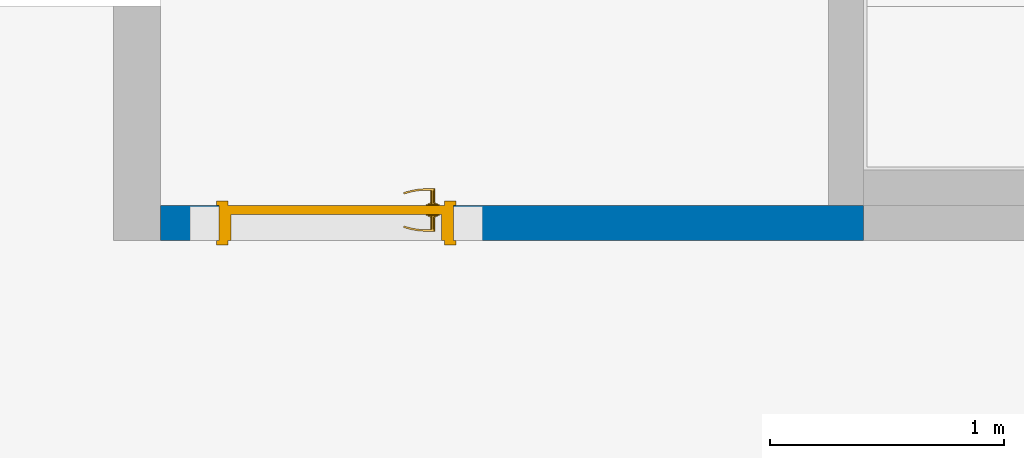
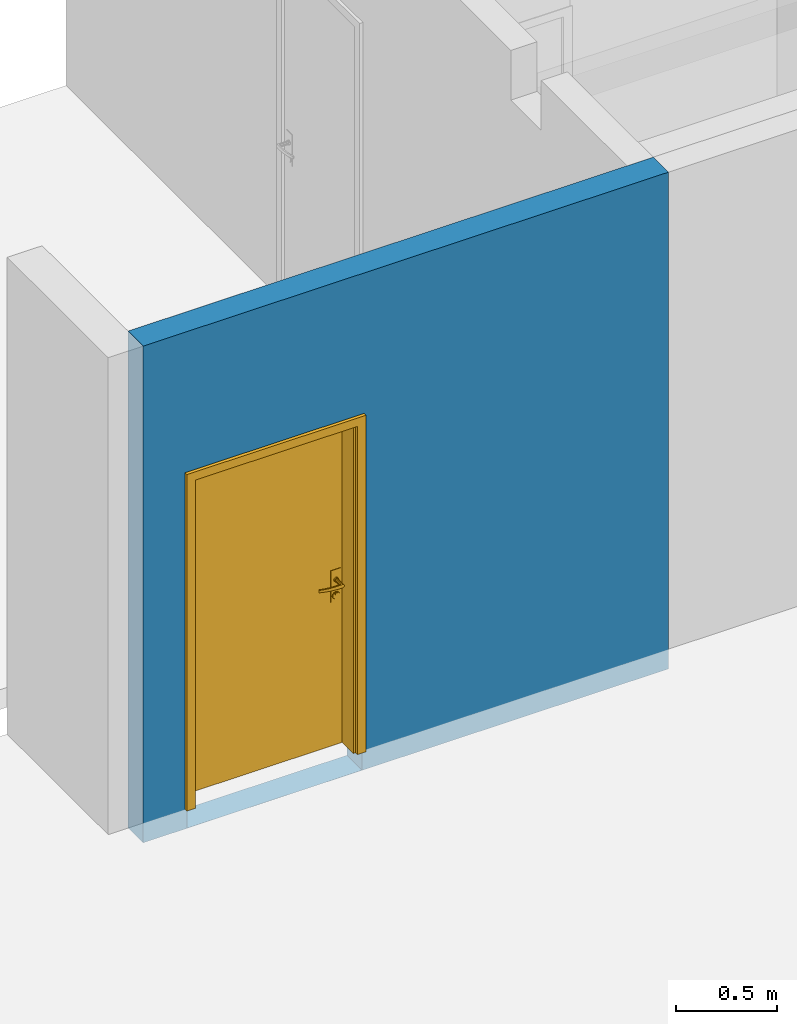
# One storey, part 12 of 17: 1 door, 1 wall, 1 opening.
"""IFC4 building model written with IfcOpenShell, lengths in millimetres."""

from ifc_helpers import new_model, entity, si_unit, converted_unit, derived_unit, direction, frame, origin_with_axes, place, context, subcontext, project, spatial, polygons, material, constituent, constituent_set, type_object, element, fill, save


model = new_model("IFC4")

# Units and contexts
model_context = context("Model", 3, precision=0.01, world=origin_with_axes(), true_north=direction((0.0, 1.0)))
body_context = subcontext(model_context, "Body", "Model", "MODEL_VIEW")
ifc_project = project(units=[si_unit("LENGTHUNIT", "METRE", prefix="MILLI"), si_unit("AREAUNIT", "SQUARE_METRE"), si_unit("VOLUMEUNIT", "CUBIC_METRE"), converted_unit("PLANEANGLEUNIT", "DEGREE", entity("IfcPlaneAngleMeasure", 0.0174532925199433), si_unit("PLANEANGLEUNIT", "RADIAN"), dimensions=[0, 0, 0, 0, 0, 0, 0]), converted_unit("TIMEUNIT", "Year", entity("IfcTimeMeasure", 31557600.0), si_unit("TIMEUNIT", "SECOND"), dimensions=[0, 0, 1, 0, 0, 0, 0]), si_unit("MASSUNIT", "GRAM", prefix="KILO"), si_unit("THERMODYNAMICTEMPERATUREUNIT", "DEGREE_CELSIUS"), si_unit("LUMINOUSINTENSITYUNIT", "LUMEN"), si_unit("ENERGYUNIT", "JOULE", prefix="MEGA"), derived_unit("THERMALCONDUCTANCEUNIT", [(si_unit("POWERUNIT", "WATT"), 1), (si_unit("LENGTHUNIT", "METRE"), -1), (si_unit("THERMODYNAMICTEMPERATUREUNIT", "KELVIN"), -1)]), derived_unit("SPECIFICHEATCAPACITYUNIT", [(si_unit("ENERGYUNIT", "JOULE"), 1), (si_unit("MASSUNIT", "GRAM", prefix="KILO"), -1), (si_unit("THERMODYNAMICTEMPERATUREUNIT", "KELVIN"), -1)]), derived_unit("MASSDENSITYUNIT", [(si_unit("MASSUNIT", "GRAM", prefix="KILO"), 1), (si_unit("VOLUMEUNIT", "CUBIC_METRE"), -1)])], contexts=[model_context])

# Site, building, storey
site_placement = place(None, origin_with_axes())
site = spatial("IfcSite", under=ifc_project, at=site_placement, Name="Exteriér", CompositionType="ELEMENT")
building_placement = place(site_placement, origin_with_axes())
building = spatial("IfcBuilding", under=site, at=building_placement, Name="Univerzitní lezecké centrum", CompositionType="ELEMENT")
storey_placement = place(building_placement, frame((0.0, 0.0, 3200.0), z_axis=(0.0, 0.0, 1.0), x_axis=(1.0, 0.0, 0.0)))
storey = spatial("IfcBuildingStorey", under=building, at=storey_placement, Name="2.NP", CompositionType="ELEMENT", Elevation=3200.0)

# Wall, opening, door
ifc_material = material(Name="Keramické tvárnice nenosné tl. 150 mm")
ifc_constituent = constituent(ifc_material, Name="Keramické tvárnice nenosné tl. 150 mm")
ifc_constituent_set = constituent_set(constituents=[ifc_constituent], Name="!Vnitřní keramická stěna 150 mm - nenosná")
wall_type = type_object("IfcWallType", Name="!Vnitřní keramická stěna 150 mm - nenosná 150", PredefinedType="NOTDEFINED")
wall_placement = place(storey_placement, frame((7900.096919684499, -1149.612793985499, -120.000000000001), z_axis=(0.0, 0.0, 1.0), x_axis=(-1.0, 0.0, 0.0)))
wall = element("IfcWall", 1, at=wall_placement, inside=storey, type_object=wall_type, material=ifc_constituent_set, Name="St07", PredefinedType="NOTDEFINED", context=body_context, shape_type="Tessellation", body=[
    polygons([(0.0, 0.0, 3000.0), (0.0, 0.0, 0.0), (3000.145758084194, 0.0, 0.0), (3000.145758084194, 0.0, 3000.0), (2750.145758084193, 0.0, 2140.000000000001), (2750.145758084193, 0.0, 120.000000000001), (2750.145758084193, 0.0, 0.500000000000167), (1750.145758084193, 0.0, 0.500000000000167), (1750.145758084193, 0.0, 120.000000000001), (1750.145758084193, 0.0, 2140.000000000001), (0.0, 150.0000102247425, 3000.0), (0.0, 149.9999999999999, 0.0), (3000.145758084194, 149.999999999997, 0.0), (3000.145758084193, 150.0000047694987, 3000.0), (2750.145758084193, 150.0000102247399, 2140.000000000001), (2750.145758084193, 149.9999999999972, 120.000000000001), (2750.145758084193, 149.9999999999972, 0.500000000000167), (1750.145758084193, 149.9999999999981, 0.500000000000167), (1750.145758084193, 149.9999999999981, 120.000000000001), (1750.145758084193, 150.0000102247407, 2140.000000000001)], [[[1, 2, 3, 4], [5, 6, 7, 8, 9, 10]], [[11, 12, 2, 1]], [[13, 3, 2, 12]], [[4, 3, 13, 14]], [[1, 4, 14, 11]], [[6, 5, 15, 16]], [[6, 16, 17, 7]], [[7, 17, 18, 8]], [[19, 9, 8, 18]], [[10, 9, 19, 20]], [[5, 10, 20, 15]], [[14, 13, 12, 11], [20, 19, 18, 17, 16, 15]]], closed=True),
])
opening_placement = place(wall_placement, frame((2250.145758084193, 0.0, 120.000000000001), z_axis=(0.0, 0.0, 1.0), x_axis=(1.0, 0.0, 0.0)))
opening = element("IfcOpeningElement", 2, at=opening_placement, cuts=wall, Name="D18", context=body_context, identifier="Reference", shape_type="Tessellation", body=[
    polygons([(500.0, -1.000000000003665, 2020.0), (-500.0, -1.000000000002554, 2020.0), (-500.0, -1.000000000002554, 0.0), (500.0, -1.000000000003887, 0.0), (512.0000000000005, -1.000000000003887, 0.0), (512.0000000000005, -1.000000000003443, 2032.0), (-512.0000000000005, -1.000000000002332, 2032.0), (-512.0000000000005, -1.000000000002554, 0.0), (500.0, 0.0, 0.0), (-500.0, 0.0, 0.0), (-500.0, 149.9999999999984, 0.0), (-500.0, 151.0000000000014, 0.0), (500.0, 151.0000000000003, 0.0), (500.0, 149.9999999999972, 0.0), (512.0000000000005, 0.0, 0.0), (512.0000000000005, 0.0, 2032.0), (-512.0000000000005, 0.0, 2032.0), (-512.0000000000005, 0.0, 0.0), (-500.0, 0.0, 2020.0), (-500.0, 149.9999999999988, 2020.0), (-512.0000000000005, 149.9999999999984, 0.0), (-512.0000000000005, 151.0000000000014, 0.0), (-512.0000000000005, 151.0000000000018, 2032.0), (512.0000000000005, 151.0000000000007, 2032.0), (512.0000000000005, 151.0000000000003, 0.0), (512.0000000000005, 149.9999999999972, 0.0), (500.0, 0.0, 2020.0), (500.0, 149.9999999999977, 2020.0), (512.0000000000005, 149.9999999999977, 2032.0), (-512.0000000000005, 149.9999999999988, 2032.0)], [[[1, 2, 3, 4]], [[3, 2, 1, 4, 5, 6, 7, 8]], [[9, 4, 3, 10, 11, 12, 13, 14]], [[4, 9, 15, 5]], [[15, 16, 6, 5]], [[16, 17, 7, 6]], [[17, 18, 8, 7]], [[10, 3, 8, 18]], [[10, 19, 20, 11]], [[12, 11, 21, 22]], [[13, 12, 22, 23, 24, 25]], [[14, 13, 25, 26]], [[27, 9, 14, 28]], [[27, 19, 10, 18, 17, 16, 15, 9]], [[19, 27, 28, 20]], [[11, 20, 28, 14, 26, 29, 30, 21]], [[21, 30, 23, 22]], [[30, 29, 24, 23]], [[29, 26, 25, 24]]], closed=True),
])
door_type = type_object("IfcDoorType", Name="Dveře 24", OperationType="SINGLE_SWING_LEFT", PredefinedType="NOTDEFINED")
door_placement = place(opening_placement, frame((450.0000000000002, 0.0, 0.0), z_axis=(0.0, 0.0, 1.0), x_axis=(-1.0, 0.0, 0.0)))
door = element("IfcDoor", 3, at=door_placement, inside=storey, type_object=door_type, Name="D18", OverallHeight=2020.0, OverallWidth=1000.0, PredefinedType="NOTDEFINED", context=body_context, shape_type="Tessellation", body=[
    polygons([(962.0000000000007, -168.9999999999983, 0.0), (911.9999999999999, -168.9999999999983, 0.0), (911.9999999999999, -149.9999999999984, 0.0), (962.0000000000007, -149.9999999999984, 0.0), (962.0000000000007, -168.9999999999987, 2032.0), (911.9999999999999, -168.9999999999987, 1982.0), (911.9999999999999, -149.9999999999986, 1982.0), (962.0000000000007, -149.9999999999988, 2032.0)], [[[1, 2, 3, 4]], [[1, 5, 6, 2]], [[2, 6, 7, 3]], [[4, 3, 7, 8]], [[5, 1, 4, 8]], [[6, 5, 8, 7]]], closed=True),
    polygons([(-62.00000000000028, -168.9999999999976, 2032.0), (-11.99999999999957, -168.9999999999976, 1982.0), (-11.99999999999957, -149.9999999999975, 1982.0), (-62.00000000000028, -149.9999999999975, 2032.0), (-62.00000000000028, -168.9999999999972, 0.0), (-11.99999999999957, -168.9999999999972, 0.0), (-11.99999999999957, -149.9999999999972, 0.0), (-62.00000000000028, -149.9999999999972, 0.0)], [[[1, 2, 3, 4]], [[1, 5, 6, 2]], [[2, 6, 7, 3]], [[4, 3, 7, 8]], [[5, 1, 4, 8]], [[6, 5, 8, 7]]], closed=True),
    polygons([(962.0000000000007, -168.9999999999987, 2032.0), (911.9999999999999, -168.9999999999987, 1982.0), (911.9999999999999, -149.9999999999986, 1982.0), (962.0000000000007, -149.9999999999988, 2032.0), (-62.00000000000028, -168.9999999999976, 2032.0), (-11.99999999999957, -168.9999999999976, 1982.0), (-11.99999999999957, -149.9999999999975, 1982.0), (-62.00000000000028, -149.9999999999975, 2032.0)], [[[1, 2, 3, 4]], [[1, 5, 6, 2]], [[2, 6, 7, 3]], [[4, 3, 7, 8]], [[5, 1, 4, 8]], [[6, 5, 8, 7]]], closed=True),
    polygons([(962.0000000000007, 19.00000000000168, 0.0), (962.0000000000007, 0.0, 0.0), (911.9999999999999, 0.0, 0.0), (911.9999999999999, 19.00000000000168, 0.0), (962.0000000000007, 19.00000000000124, 2032.0), (962.0000000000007, 0.0, 2032.0), (911.9999999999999, 0.0, 1982.0), (911.9999999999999, 19.00000000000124, 1982.0)], [[[1, 2, 3, 4]], [[5, 6, 2, 1]], [[2, 6, 7, 3]], [[4, 3, 7, 8]], [[1, 4, 8, 5]], [[8, 7, 6, 5]]], closed=True),
    polygons([(-62.00000000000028, 19.00000000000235, 2032.0), (-62.00000000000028, 0.0, 2032.0), (-11.99999999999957, 0.0, 1982.0), (-11.99999999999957, 19.00000000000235, 1982.0), (-62.00000000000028, 19.00000000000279, 0.0), (-62.00000000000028, 0.0, 0.0), (-11.99999999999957, 0.0, 0.0), (-11.99999999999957, 19.00000000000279, 0.0)], [[[1, 2, 3, 4]], [[5, 6, 2, 1]], [[2, 6, 7, 3]], [[4, 3, 7, 8]], [[1, 4, 8, 5]], [[8, 7, 6, 5]]], closed=True),
    polygons([(962.0000000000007, 19.00000000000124, 2032.0), (962.0000000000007, 0.0, 2032.0), (911.9999999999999, 0.0, 1982.0), (911.9999999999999, 19.00000000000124, 1982.0), (-62.00000000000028, 19.00000000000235, 2032.0), (-62.00000000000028, 0.0, 2032.0), (-11.99999999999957, 0.0, 1982.0), (-11.99999999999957, 19.00000000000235, 1982.0)], [[[1, 2, 3, 4]], [[5, 6, 2, 1]], [[2, 6, 7, 3]], [[4, 3, 7, 8]], [[1, 4, 8, 5]], [[8, 7, 6, 5]]], closed=True),
    polygons([(900.0000000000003, -39.99999999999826, 0.0), (900.0000000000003, -149.9999999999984, 0.0), (900.0000000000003, -149.9999999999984, 1970.0), (900.0000000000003, -39.99999999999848, 1970.0), (911.9999999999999, -39.99999999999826, 0.0), (911.9999999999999, 0.0, 0.0), (950.0000000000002, 0.0, 0.0), (950.0000000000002, -149.9999999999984, 0.0), (950.0000000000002, -149.9999999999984, 1970.0), (911.9999999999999, -39.99999999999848, 1970.0), (950.0000000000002, 0.0, 1970.0), (911.9999999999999, 0.0, 1970.0)], [[[1, 2, 3, 4]], [[5, 6, 7, 8, 2, 1]], [[2, 8, 9, 3]], [[10, 4, 3, 9, 11, 12]], [[10, 5, 1, 4]], [[12, 6, 5, 10]], [[12, 11, 7, 6]], [[7, 11, 9, 8]]], closed=True),
    polygons([(-11.99999999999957, -39.99999999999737, 1970.0), (-11.99999999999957, 0.0, 1970.0), (-49.99999999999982, 0.0, 1970.0), (-49.99999999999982, -149.9999999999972, 1970.0), (0.0, -149.9999999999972, 1970.0), (0.0, -39.99999999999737, 1970.0), (-11.99999999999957, -39.99999999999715, 0.0), (-11.99999999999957, 0.0, 0.0), (-49.99999999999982, 0.0, 0.0), (-49.99999999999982, -149.9999999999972, 0.0), (0.0, -149.9999999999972, 0.0), (0.0, -39.99999999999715, 0.0)], [[[1, 2, 3, 4, 5, 6]], [[1, 7, 8, 2]], [[8, 9, 3, 2]], [[3, 9, 10, 4]], [[4, 10, 11, 5]], [[6, 5, 11, 12]], [[6, 12, 7, 1]], [[7, 12, 11, 10, 9, 8]]], closed=True),
    polygons([(911.9999999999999, 0.0, 1982.0), (-11.99999999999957, 0.0, 1982.0), (-11.99999999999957, 0.0, 1970.0), (-49.99999999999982, 0.0, 1970.0), (-49.99999999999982, 0.0, 2020.0), (950.0000000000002, 0.0, 2020.0), (950.0000000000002, 0.0, 1970.0), (911.9999999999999, 0.0, 1970.0), (911.9999999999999, -39.99999999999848, 1982.0), (-11.99999999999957, -39.99999999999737, 1982.0), (-11.99999999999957, -39.99999999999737, 1970.0), (0.0, -39.99999999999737, 1970.0), (0.0, -149.9999999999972, 1970.0), (-49.99999999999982, -149.9999999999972, 1970.0), (-49.99999999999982, -149.9999999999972, 2020.0), (950.0000000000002, -149.9999999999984, 2020.0), (950.0000000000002, -149.9999999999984, 1970.0), (911.9999999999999, -39.99999999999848, 1970.0), (900.0000000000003, -149.9999999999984, 1970.0), (900.0000000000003, -39.99999999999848, 1970.0)], [[[1, 2, 3, 4, 5, 6, 7, 8]], [[1, 9, 10, 2]], [[2, 10, 11, 3]], [[11, 12, 13, 14, 4, 3]], [[5, 4, 14, 15]], [[6, 5, 15, 16]], [[7, 6, 16, 17]], [[18, 8, 7, 17, 19, 20]], [[8, 18, 9, 1]], [[11, 10, 9, 18, 20, 12]], [[20, 19, 13, 12]], [[13, 19, 17, 16, 15, 14]]], closed=True),
    polygons([(890.5000000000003, -39.99999999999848, 1060.0), (833.4999999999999, -39.99999999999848, 1060.0), (833.4999999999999, -42.99999999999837, 1060.0), (890.5000000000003, -42.99999999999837, 1060.0), (890.5000000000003, -39.99999999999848, 869.9999999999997), (833.4999999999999, -39.99999999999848, 869.9999999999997), (833.4999999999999, -42.99999999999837, 869.9999999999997), (890.5000000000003, -42.99999999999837, 869.9999999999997)], [[[1, 2, 3, 4]], [[1, 5, 6, 2]], [[2, 6, 7, 3]], [[4, 3, 7, 8]], [[5, 1, 4, 8]], [[6, 5, 8, 7]]], closed=True),
    polygons([(862.0000000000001, -103.9999999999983, 989.9999999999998), (867.0, -103.9999999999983, 991.3397459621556), (867.0, -110.9999999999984, 991.3397459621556), (862.0000000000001, -110.9999999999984, 989.9999999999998), (836.9999999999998, -103.9999999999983, 989.9999999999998), (836.9999999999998, -103.9999999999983, 1010.0), (862.0000000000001, -103.9999999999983, 1010.0), (867.0, -103.9999999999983, 1008.660254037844), (870.660254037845, -103.9999999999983, 1004.999999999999), (871.9999999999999, -103.9999999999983, 1000.0), (870.660254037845, -103.9999999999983, 994.9999999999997), (870.660254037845, -110.9999999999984, 994.9999999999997), (871.9999999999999, -110.9999999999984, 1000.0), (870.660254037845, -110.9999999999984, 1004.999999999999), (867.0, -110.9999999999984, 1008.660254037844), (862.0000000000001, -110.9999999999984, 1010.0), (836.9999999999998, -110.9999999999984, 1010.0), (836.9999999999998, -110.9999999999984, 989.9999999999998)], [[[1, 2, 3, 4]], [[1, 5, 6, 7, 8, 9, 10, 11, 2]], [[2, 11, 12, 3]], [[4, 3, 12, 13, 14, 15, 16, 17, 18]], [[5, 1, 4, 18]], [[6, 5, 18, 17]], [[7, 6, 17, 16]], [[8, 7, 16, 15]], [[9, 8, 15, 14]], [[10, 9, 14, 13]], [[11, 10, 13, 12]]], closed=True),
    polygons([(836.9999999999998, -103.9999999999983, 1010.0), (823.9017171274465, -103.9999999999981, 1009.607300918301), (823.5960905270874, -110.9999999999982, 1009.607300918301), (836.9999999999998, -103.9999999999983, 989.9999999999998), (823.9017171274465, -103.9999999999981, 990.3926990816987), (796.8902834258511, -108.6635446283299, 1008.821902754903), (836.9999999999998, -110.9999999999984, 1010.0), (836.9999999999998, -110.9999999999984, 989.9999999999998), (797.8048372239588, -101.7168188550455, 991.1780972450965), (797.8048372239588, -101.7168188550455, 1008.821902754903), (796.8902834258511, -108.6635446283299, 991.1780972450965), (823.5960905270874, -110.9999999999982, 990.3926990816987), (772.0062561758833, -97.1678329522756, 991.9634954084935), (772.0062561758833, -97.1678329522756, 1008.036504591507), (770.4897354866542, -104.008415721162, 1008.036504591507), (770.4897354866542, -104.008415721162, 991.9634954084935), (746.7023167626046, -90.38766282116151, 992.7488935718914), (746.7023167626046, -90.38766282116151, 1007.251106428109), (744.5953708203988, -97.07004162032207, 1007.251106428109), (744.5953708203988, -97.07004162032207, 992.7488935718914), (738.8294420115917, -87.52217075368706, 992.9999999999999), (738.8294420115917, -87.52217075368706, 1007.0), (736.5387956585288, -94.1376880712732, 1007.0), (736.5387956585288, -94.1376880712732, 992.9999999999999)], [[[1, 2, 3]], [[1, 4, 5, 2]], [[2, 6, 3]], [[1, 3, 7]], [[5, 4, 8]], [[2, 5, 9, 10]], [[2, 10, 6]], [[3, 6, 11, 12]], [[7, 3, 12, 8]], [[5, 8, 12]], [[9, 5, 12]], [[10, 9, 13, 14]], [[10, 15, 6]], [[6, 15, 16, 11]], [[9, 12, 11]], [[13, 9, 11]], [[14, 13, 17, 18]], [[10, 14, 15]], [[15, 19, 20, 16]], [[13, 11, 16]], [[17, 13, 16]], [[18, 17, 21, 22]], [[14, 18, 19]], [[14, 19, 15]], [[19, 23, 24, 20]], [[17, 16, 20]], [[21, 17, 20]], [[22, 21, 24, 23]], [[18, 22, 23]], [[18, 23, 19]], [[21, 20, 24]]], closed=False),
    polygons([(851.6076951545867, -52.99999999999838, 994.0000000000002), (850.0000000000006, -52.99999999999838, 1000.0), (849.0000000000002, -42.99999999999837, 1000.0), (850.7416697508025, -42.99999999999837, 993.4999999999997), (855.9999999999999, -52.99999999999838, 989.6076951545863), (862.0000000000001, -52.99999999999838, 988.0), (868.0000000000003, -52.99999999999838, 989.6076951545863), (872.3923048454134, -52.99999999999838, 994.0000000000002), (874.0000000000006, -52.99999999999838, 1000.0), (872.3923048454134, -52.99999999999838, 1006.0), (868.0000000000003, -52.99999999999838, 1010.392304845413), (862.0000000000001, -52.99999999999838, 1012.0), (855.9999999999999, -52.99999999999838, 1010.392304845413), (851.6076951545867, -52.99999999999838, 1006.0), (850.7416697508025, -42.99999999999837, 1006.5), (855.5000000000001, -42.99999999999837, 1011.258330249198), (862.0000000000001, -42.99999999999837, 1013.0), (868.5, -42.99999999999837, 1011.258330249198), (873.2583302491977, -42.99999999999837, 1006.5), (875.0, -42.99999999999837, 1000.0), (873.2583302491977, -42.99999999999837, 993.4999999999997), (868.5, -42.99999999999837, 988.741669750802), (862.0000000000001, -42.99999999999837, 986.9999999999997), (855.5000000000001, -42.99999999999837, 988.741669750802)], [[[1, 2, 3, 4]], [[2, 1, 5, 6, 7, 8, 9, 10, 11, 12, 13, 14]], [[2, 14, 15, 3]], [[3, 15, 16, 17, 18, 19, 20, 21, 22, 23, 24, 4]], [[5, 1, 4, 24]], [[6, 5, 24, 23]], [[7, 6, 23, 22]], [[8, 7, 22, 21]], [[9, 8, 21, 20]], [[10, 9, 20, 19]], [[11, 10, 19, 18]], [[12, 11, 18, 17]], [[13, 12, 17, 16]], [[14, 13, 16, 15]]], closed=True),
    polygons([(844.6794919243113, -46.99999999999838, 895.0), (842.0000000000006, -46.99999999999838, 904.9999999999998), (839.9999999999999, -42.99999999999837, 904.9999999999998), (842.9474411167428, -42.99999999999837, 893.9999999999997), (852.0000000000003, -46.99999999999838, 887.6794919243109), (862.0000000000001, -46.99999999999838, 885.0000000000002), (871.9999999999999, -46.99999999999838, 887.6794919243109), (879.320508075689, -46.99999999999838, 895.0), (882.0000000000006, -46.99999999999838, 904.9999999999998), (879.320508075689, -46.99999999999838, 914.9999999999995), (871.9999999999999, -46.99999999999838, 922.3205080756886), (862.0000000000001, -46.99999999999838, 925.0000000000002), (852.0000000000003, -46.99999999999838, 922.3205080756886), (844.6794919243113, -46.99999999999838, 914.9999999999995), (842.9474411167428, -42.99999999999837, 915.9999999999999), (851.0, -42.99999999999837, 924.052558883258), (862.0000000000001, -42.99999999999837, 927.0), (873.0000000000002, -42.99999999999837, 924.052558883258), (881.0525588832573, -42.99999999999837, 915.9999999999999), (884.0000000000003, -42.99999999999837, 904.9999999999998), (881.0525588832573, -42.99999999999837, 893.9999999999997), (873.0000000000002, -42.99999999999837, 885.9474411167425), (862.0000000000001, -42.99999999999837, 882.9999999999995), (851.0, -42.99999999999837, 885.9474411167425)], [[[1, 2, 3, 4]], [[2, 1, 5, 6, 7, 8, 9, 10, 11, 12, 13, 14]], [[2, 14, 15, 3]], [[3, 15, 16, 17, 18, 19, 20, 21, 22, 23, 24, 4]], [[5, 1, 4, 24]], [[6, 5, 24, 23]], [[7, 6, 23, 22]], [[8, 7, 22, 21]], [[9, 8, 21, 20]], [[10, 9, 20, 19]], [[11, 10, 19, 18]], [[12, 11, 18, 17]], [[13, 12, 17, 16]], [[14, 13, 16, 15]]], closed=True),
    polygons([(857.0502525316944, -48.99999999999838, 909.0502525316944), (855.0000000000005, -48.99999999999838, 914.0000000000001), (854.0000000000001, -46.99999999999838, 914.0000000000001), (856.3431457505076, -46.99999999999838, 908.3431457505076), (862.0000000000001, -48.99999999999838, 907.0000000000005), (866.9497474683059, -48.99999999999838, 909.0502525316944), (868.9999999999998, -48.99999999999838, 914.0000000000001), (866.9497474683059, -48.99999999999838, 918.949747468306), (862.0000000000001, -48.99999999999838, 920.9999999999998), (857.0502525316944, -48.99999999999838, 918.949747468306), (856.3431457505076, -46.99999999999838, 919.6568542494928), (862.0000000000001, -46.99999999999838, 922.0000000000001), (867.6568542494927, -46.99999999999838, 919.6568542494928), (870.0000000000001, -46.99999999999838, 914.0000000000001), (867.6568542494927, -46.99999999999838, 908.3431457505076), (862.0000000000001, -46.99999999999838, 906.0000000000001)], [[[1, 2, 3, 4]], [[2, 1, 5, 6, 7, 8, 9, 10]], [[2, 10, 11, 3]], [[3, 11, 12, 13, 14, 15, 16, 4]], [[5, 1, 4, 16]], [[6, 5, 16, 15]], [[7, 6, 15, 14]], [[8, 7, 14, 13]], [[9, 8, 13, 12]], [[10, 9, 12, 11]]], closed=True),
    polygons([(862.0000000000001, -52.99999999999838, 1010.0), (857.0000000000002, -52.99999999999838, 1008.660254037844), (857.0000000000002, -103.9999999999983, 1008.660254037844), (862.0000000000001, -103.9999999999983, 1010.0), (867.0, -52.99999999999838, 1008.660254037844), (870.660254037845, -52.99999999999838, 1004.999999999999), (871.9999999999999, -52.99999999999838, 1000.0), (870.660254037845, -52.99999999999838, 994.9999999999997), (867.0, -52.99999999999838, 991.3397459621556), (862.0000000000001, -52.99999999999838, 989.9999999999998), (857.0000000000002, -52.99999999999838, 991.3397459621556), (853.3397459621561, -52.99999999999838, 994.9999999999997), (852.0000000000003, -52.99999999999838, 1000.0), (853.3397459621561, -52.99999999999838, 1004.999999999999), (853.3397459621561, -103.9999999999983, 1004.999999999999), (852.0000000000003, -103.9999999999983, 1000.0), (853.3397459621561, -103.9999999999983, 994.9999999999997), (857.0000000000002, -103.9999999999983, 991.3397459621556), (862.0000000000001, -103.9999999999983, 989.9999999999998), (867.0, -103.9999999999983, 991.3397459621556), (870.660254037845, -103.9999999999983, 994.9999999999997), (871.9999999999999, -103.9999999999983, 1000.0), (870.660254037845, -103.9999999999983, 1004.999999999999), (867.0, -103.9999999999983, 1008.660254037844)], [[[1, 2, 3, 4]], [[1, 5, 6, 7, 8, 9, 10, 11, 12, 13, 14, 2]], [[2, 14, 15, 3]], [[4, 3, 15, 16, 17, 18, 19, 20, 21, 22, 23, 24]], [[5, 1, 4, 24]], [[6, 5, 24, 23]], [[7, 6, 23, 22]], [[8, 7, 22, 21]], [[9, 8, 21, 20]], [[10, 9, 20, 19]], [[11, 10, 19, 18]], [[12, 11, 18, 17]], [[13, 12, 17, 16]], [[14, 13, 16, 15]]], closed=True),
    polygons([(890.5000000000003, 0.0, 1060.0), (890.5000000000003, 3.000000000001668, 1060.0), (833.4999999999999, 3.000000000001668, 1060.0), (833.4999999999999, 0.0, 1060.0), (890.5000000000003, 0.0, 869.9999999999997), (890.5000000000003, 3.000000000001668, 869.9999999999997), (833.4999999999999, 3.000000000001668, 869.9999999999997), (833.4999999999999, 0.0, 869.9999999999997)], [[[1, 2, 3, 4]], [[5, 6, 2, 1]], [[2, 6, 7, 3]], [[4, 3, 7, 8]], [[1, 4, 8, 5]], [[8, 7, 6, 5]]], closed=True),
    polygons([(862.0000000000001, 64.0000000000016, 989.9999999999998), (862.0000000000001, 71.00000000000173, 989.9999999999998), (867.0, 71.00000000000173, 991.3397459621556), (867.0, 64.0000000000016, 991.3397459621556), (836.9999999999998, 64.0000000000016, 989.9999999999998), (836.9999999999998, 71.0000000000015, 989.9999999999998), (836.9999999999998, 71.0000000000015, 1010.0), (862.0000000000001, 71.00000000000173, 1010.0), (867.0, 71.00000000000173, 1008.660254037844), (870.660254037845, 71.00000000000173, 1004.999999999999), (871.9999999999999, 71.00000000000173, 1000.0), (870.660254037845, 71.00000000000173, 994.9999999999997), (870.660254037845, 64.0000000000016, 994.9999999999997), (871.9999999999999, 64.0000000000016, 1000.0), (870.660254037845, 64.0000000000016, 1004.999999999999), (867.0, 64.0000000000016, 1008.660254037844), (862.0000000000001, 64.0000000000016, 1010.0), (836.9999999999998, 64.0000000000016, 1010.0)], [[[1, 2, 3, 4]], [[5, 6, 2, 1]], [[2, 6, 7, 8, 9, 10, 11, 12, 3]], [[4, 3, 12, 13]], [[1, 4, 13, 14, 15, 16, 17, 18, 5]], [[18, 7, 6, 5]], [[17, 8, 7, 18]], [[16, 9, 8, 17]], [[15, 10, 9, 16]], [[14, 11, 10, 15]], [[13, 12, 11, 14]]], closed=True),
    polygons([(836.9999999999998, 64.0000000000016, 1010.0), (823.5960905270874, 71.00000000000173, 1009.607300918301), (823.9017171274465, 64.00000000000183, 1009.607300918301), (836.9999999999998, 71.00000000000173, 1010.0), (796.8902834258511, 68.66354462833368, 1008.821902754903), (823.9017171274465, 64.00000000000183, 990.3926990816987), (836.9999999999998, 64.0000000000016, 989.9999999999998), (836.9999999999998, 71.00000000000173, 989.9999999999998), (823.5960905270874, 71.00000000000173, 990.3926990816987), (796.8902834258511, 68.66354462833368, 991.1780972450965), (797.8048372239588, 61.7168188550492, 1008.821902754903), (797.8048372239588, 61.7168188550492, 991.1780972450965), (770.4897354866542, 64.00841572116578, 991.9634954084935), (770.4897354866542, 64.00841572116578, 1008.036504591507), (772.0062561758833, 57.16783295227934, 1008.036504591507), (772.0062561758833, 57.16783295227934, 991.9634954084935), (744.5953708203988, 57.07004162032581, 992.7488935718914), (744.5953708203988, 57.07004162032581, 1007.251106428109), (746.7023167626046, 50.38766282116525, 1007.251106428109), (746.7023167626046, 50.38766282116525, 992.7488935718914), (736.5387956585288, 54.13768807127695, 992.9999999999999), (736.5387956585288, 54.13768807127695, 1007.0), (738.8294420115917, 47.52217075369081, 1007.0), (738.8294420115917, 47.52217075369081, 992.9999999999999)], [[[1, 2, 3]], [[1, 4, 2]], [[3, 2, 5]], [[1, 3, 6, 7]], [[4, 8, 9, 2]], [[2, 9, 10, 5]], [[3, 5, 11]], [[3, 11, 12, 6]], [[6, 8, 7]], [[6, 9, 8]], [[12, 10, 9]], [[5, 10, 13, 14]], [[11, 5, 14]], [[11, 15, 16, 12]], [[12, 9, 6]], [[16, 10, 12]], [[16, 13, 10]], [[14, 13, 17, 18]], [[11, 14, 15]], [[15, 19, 20, 16]], [[20, 13, 16]], [[20, 17, 13]], [[18, 17, 21, 22]], [[15, 14, 18]], [[15, 18, 19]], [[19, 23, 24, 20]], [[24, 17, 20]], [[24, 21, 17]], [[23, 22, 21, 24]], [[19, 18, 22]], [[19, 22, 23]]], closed=False),
    polygons([(851.6076951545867, 13.00000000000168, 994.0000000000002), (850.7416697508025, 3.000000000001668, 993.4999999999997), (849.0000000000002, 3.000000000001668, 1000.0), (850.0000000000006, 13.00000000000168, 1000.0), (855.9999999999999, 13.00000000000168, 989.6076951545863), (855.5000000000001, 3.000000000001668, 988.741669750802), (862.0000000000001, 3.000000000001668, 986.9999999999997), (868.5, 3.000000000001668, 988.741669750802), (873.2583302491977, 3.000000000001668, 993.4999999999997), (875.0, 3.000000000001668, 1000.0), (873.2583302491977, 3.000000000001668, 1006.5), (868.5, 3.000000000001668, 1011.258330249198), (862.0000000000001, 3.000000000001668, 1013.0), (855.5000000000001, 3.000000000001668, 1011.258330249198), (850.7416697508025, 3.000000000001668, 1006.5), (851.6076951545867, 13.00000000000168, 1006.0), (855.9999999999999, 13.00000000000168, 1010.392304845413), (862.0000000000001, 13.00000000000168, 1012.0), (868.0000000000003, 13.00000000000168, 1010.392304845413), (872.3923048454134, 13.00000000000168, 1006.0), (874.0000000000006, 13.00000000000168, 1000.0), (872.3923048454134, 13.00000000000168, 994.0000000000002), (868.0000000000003, 13.00000000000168, 989.6076951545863), (862.0000000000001, 13.00000000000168, 988.0)], [[[1, 2, 3, 4]], [[5, 6, 2, 1]], [[3, 2, 6, 7, 8, 9, 10, 11, 12, 13, 14, 15]], [[4, 3, 15, 16]], [[4, 16, 17, 18, 19, 20, 21, 22, 23, 24, 5, 1]], [[24, 7, 6, 5]], [[23, 8, 7, 24]], [[22, 9, 8, 23]], [[21, 10, 9, 22]], [[20, 11, 10, 21]], [[19, 12, 11, 20]], [[18, 13, 12, 19]], [[17, 14, 13, 18]], [[16, 15, 14, 17]]], closed=True),
    polygons([(844.6794919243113, 7.000000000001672, 895.0), (842.9474411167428, 3.000000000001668, 893.9999999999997), (839.9999999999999, 3.000000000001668, 904.9999999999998), (842.0000000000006, 7.000000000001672, 904.9999999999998), (852.0000000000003, 7.000000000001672, 887.6794919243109), (851.0, 3.000000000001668, 885.9474411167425), (862.0000000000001, 3.000000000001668, 882.9999999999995), (873.0000000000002, 3.000000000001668, 885.9474411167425), (881.0525588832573, 3.000000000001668, 893.9999999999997), (884.0000000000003, 3.000000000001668, 904.9999999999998), (881.0525588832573, 3.000000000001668, 915.9999999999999), (873.0000000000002, 3.000000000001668, 924.052558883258), (862.0000000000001, 3.000000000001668, 927.0), (851.0, 3.000000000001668, 924.052558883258), (842.9474411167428, 3.000000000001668, 915.9999999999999), (844.6794919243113, 7.000000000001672, 914.9999999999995), (852.0000000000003, 7.000000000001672, 922.3205080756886), (862.0000000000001, 7.000000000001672, 925.0000000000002), (871.9999999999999, 7.000000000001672, 922.3205080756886), (879.320508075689, 7.000000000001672, 914.9999999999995), (882.0000000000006, 7.000000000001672, 904.9999999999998), (879.320508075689, 7.000000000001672, 895.0), (871.9999999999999, 7.000000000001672, 887.6794919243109), (862.0000000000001, 7.000000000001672, 885.0000000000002)], [[[1, 2, 3, 4]], [[5, 6, 2, 1]], [[3, 2, 6, 7, 8, 9, 10, 11, 12, 13, 14, 15]], [[4, 3, 15, 16]], [[4, 16, 17, 18, 19, 20, 21, 22, 23, 24, 5, 1]], [[24, 7, 6, 5]], [[23, 8, 7, 24]], [[22, 9, 8, 23]], [[21, 10, 9, 22]], [[20, 11, 10, 21]], [[19, 12, 11, 20]], [[18, 13, 12, 19]], [[17, 14, 13, 18]], [[16, 15, 14, 17]]], closed=True),
    polygons([(857.0502525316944, 9.000000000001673, 909.0502525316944), (856.3431457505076, 7.000000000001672, 908.3431457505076), (854.0000000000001, 7.000000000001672, 914.0000000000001), (855.0000000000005, 9.000000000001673, 914.0000000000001), (862.0000000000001, 9.000000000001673, 907.0000000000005), (862.0000000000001, 7.000000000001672, 906.0000000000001), (867.6568542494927, 7.000000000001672, 908.3431457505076), (870.0000000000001, 7.000000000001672, 914.0000000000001), (867.6568542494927, 7.000000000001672, 919.6568542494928), (862.0000000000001, 7.000000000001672, 922.0000000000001), (856.3431457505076, 7.000000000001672, 919.6568542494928), (857.0502525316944, 9.000000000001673, 918.949747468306), (862.0000000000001, 9.000000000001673, 920.9999999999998), (866.9497474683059, 9.000000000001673, 918.949747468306), (868.9999999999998, 9.000000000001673, 914.0000000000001), (866.9497474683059, 9.000000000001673, 909.0502525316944)], [[[1, 2, 3, 4]], [[5, 6, 2, 1]], [[3, 2, 6, 7, 8, 9, 10, 11]], [[4, 3, 11, 12]], [[4, 12, 13, 14, 15, 16, 5, 1]], [[16, 7, 6, 5]], [[15, 8, 7, 16]], [[14, 9, 8, 15]], [[13, 10, 9, 14]], [[12, 11, 10, 13]]], closed=True),
    polygons([(862.0000000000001, 13.00000000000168, 1010.0), (862.0000000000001, 64.0000000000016, 1010.0), (857.0000000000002, 64.0000000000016, 1008.660254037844), (857.0000000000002, 13.00000000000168, 1008.660254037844), (867.0, 13.00000000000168, 1008.660254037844), (867.0, 64.0000000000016, 1008.660254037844), (870.660254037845, 64.0000000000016, 1004.999999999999), (871.9999999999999, 64.0000000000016, 1000.0), (870.660254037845, 64.0000000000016, 994.9999999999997), (867.0, 64.0000000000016, 991.3397459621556), (862.0000000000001, 64.0000000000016, 989.9999999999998), (857.0000000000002, 64.0000000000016, 991.3397459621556), (853.3397459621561, 64.0000000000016, 994.9999999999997), (852.0000000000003, 64.0000000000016, 1000.0), (853.3397459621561, 64.0000000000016, 1004.999999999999), (853.3397459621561, 13.00000000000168, 1004.999999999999), (852.0000000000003, 13.00000000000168, 1000.0), (853.3397459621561, 13.00000000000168, 994.9999999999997), (857.0000000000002, 13.00000000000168, 991.3397459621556), (862.0000000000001, 13.00000000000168, 989.9999999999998), (867.0, 13.00000000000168, 991.3397459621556), (870.660254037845, 13.00000000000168, 994.9999999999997), (871.9999999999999, 13.00000000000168, 1000.0), (870.660254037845, 13.00000000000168, 1004.999999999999)], [[[1, 2, 3, 4]], [[5, 6, 2, 1]], [[2, 6, 7, 8, 9, 10, 11, 12, 13, 14, 15, 3]], [[4, 3, 15, 16]], [[1, 4, 16, 17, 18, 19, 20, 21, 22, 23, 24, 5]], [[24, 7, 6, 5]], [[23, 8, 7, 24]], [[22, 9, 8, 23]], [[21, 10, 9, 22]], [[20, 11, 10, 21]], [[19, 12, 11, 20]], [[18, 13, 12, 19]], [[17, 14, 13, 18]], [[16, 15, 14, 17]]], closed=True),
    polygons([(-11.99999999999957, 0.0, 0.0), (911.9999999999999, 0.0, 0.0), (911.9999999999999, -39.99999999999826, 0.0), (-11.99999999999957, -39.99999999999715, 0.0), (-11.99999999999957, 0.0, 1982.0), (911.9999999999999, 0.0, 1982.0), (911.9999999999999, -39.99999999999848, 1982.0), (-11.99999999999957, -39.99999999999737, 1982.0)], [[[1, 2, 3, 4]], [[1, 5, 6, 2]], [[2, 6, 7, 3]], [[4, 3, 7, 8]], [[5, 1, 4, 8]], [[6, 5, 8, 7]]], closed=True),
])
fill(opening, door)

save(model, "model.ifc")
